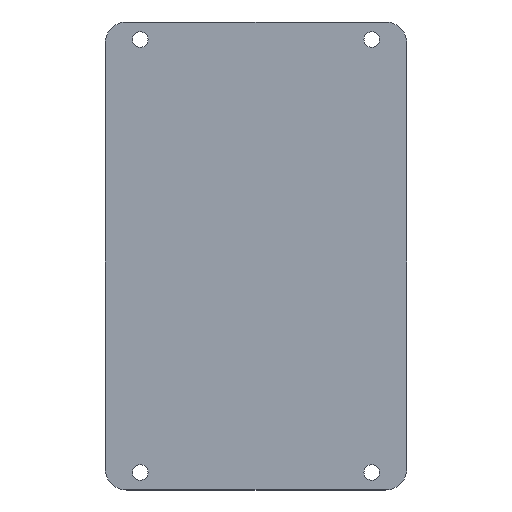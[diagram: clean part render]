
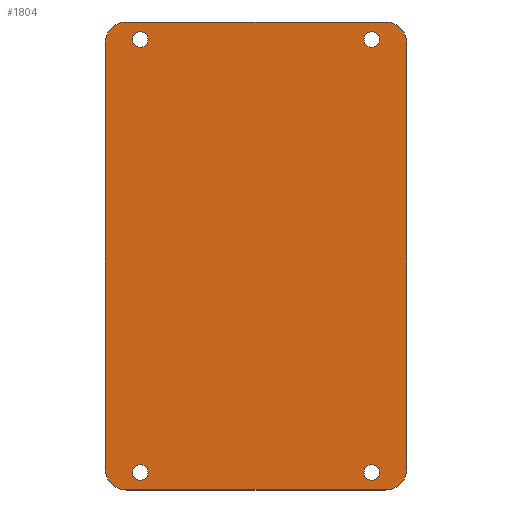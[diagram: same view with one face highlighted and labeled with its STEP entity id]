
A CAD part, top view. The second image highlights one B-rep face of the part: STEP entity #1804.
In plain terms, the highlighted planar face has unit normal (0, 0, 1).
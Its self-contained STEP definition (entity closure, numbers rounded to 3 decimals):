
#47=FACE_BOUND('',#273,.T.);
#48=FACE_BOUND('',#274,.T.);
#49=FACE_BOUND('',#275,.T.);
#50=FACE_BOUND('',#276,.T.);
#61=CIRCLE('',#1928,4.32);
#62=CIRCLE('',#1929,4.32);
#63=CIRCLE('',#1930,4.32);
#64=CIRCLE('',#1931,4.32);
#65=CIRCLE('',#1932,1.55);
#66=CIRCLE('',#1933,1.55);
#67=CIRCLE('',#1934,1.55);
#68=CIRCLE('',#1935,1.55);
#155=FACE_OUTER_BOUND('',#272,.T.);
#272=EDGE_LOOP('',(#1561,#1562,#1563,#1564,#1565,#1566,#1567,#1568));
#273=EDGE_LOOP('',(#1569));
#274=EDGE_LOOP('',(#1570));
#275=EDGE_LOOP('',(#1571));
#276=EDGE_LOOP('',(#1572));
#498=LINE('',#2871,#723);
#500=LINE('',#2876,#725);
#501=LINE('',#2881,#726);
#502=LINE('',#2885,#727);
#723=VECTOR('',#2354,10.);
#725=VECTOR('',#2358,10.);
#726=VECTOR('',#2363,10.);
#727=VECTOR('',#2366,10.);
#888=VERTEX_POINT('',#2868);
#889=VERTEX_POINT('',#2870);
#890=VERTEX_POINT('',#2874);
#891=VERTEX_POINT('',#2875);
#892=VERTEX_POINT('',#2878);
#893=VERTEX_POINT('',#2880);
#894=VERTEX_POINT('',#2882);
#895=VERTEX_POINT('',#2884);
#896=VERTEX_POINT('',#2887);
#897=VERTEX_POINT('',#2889);
#898=VERTEX_POINT('',#2891);
#899=VERTEX_POINT('',#2893);
#1120=EDGE_CURVE('',#889,#888,#498,.T.);
#1122=EDGE_CURVE('',#890,#891,#500,.T.);
#1123=EDGE_CURVE('',#891,#889,#61,.T.);
#1124=EDGE_CURVE('',#888,#892,#62,.T.);
#1125=EDGE_CURVE('',#892,#893,#501,.T.);
#1126=EDGE_CURVE('',#893,#894,#63,.T.);
#1127=EDGE_CURVE('',#894,#895,#502,.T.);
#1128=EDGE_CURVE('',#895,#890,#64,.T.);
#1129=EDGE_CURVE('',#896,#896,#65,.T.);
#1130=EDGE_CURVE('',#897,#897,#66,.T.);
#1131=EDGE_CURVE('',#898,#898,#67,.T.);
#1132=EDGE_CURVE('',#899,#899,#68,.T.);
#1561=ORIENTED_EDGE('',*,*,#1122,.T.);
#1562=ORIENTED_EDGE('',*,*,#1123,.T.);
#1563=ORIENTED_EDGE('',*,*,#1120,.T.);
#1564=ORIENTED_EDGE('',*,*,#1124,.T.);
#1565=ORIENTED_EDGE('',*,*,#1125,.T.);
#1566=ORIENTED_EDGE('',*,*,#1126,.T.);
#1567=ORIENTED_EDGE('',*,*,#1127,.T.);
#1568=ORIENTED_EDGE('',*,*,#1128,.T.);
#1569=ORIENTED_EDGE('',*,*,#1129,.T.);
#1570=ORIENTED_EDGE('',*,*,#1130,.T.);
#1571=ORIENTED_EDGE('',*,*,#1131,.T.);
#1572=ORIENTED_EDGE('',*,*,#1132,.T.);
#1714=PLANE('',#1927);
#1804=ADVANCED_FACE('',(#155,#47,#48,#49,#50),#1714,.T.);
#1927=AXIS2_PLACEMENT_3D('',#2873,#2356,#2357);
#1928=AXIS2_PLACEMENT_3D('',#2877,#2359,#2360);
#1929=AXIS2_PLACEMENT_3D('',#2879,#2361,#2362);
#1930=AXIS2_PLACEMENT_3D('',#2883,#2364,#2365);
#1931=AXIS2_PLACEMENT_3D('',#2886,#2367,#2368);
#1932=AXIS2_PLACEMENT_3D('',#2888,#2369,#2370);
#1933=AXIS2_PLACEMENT_3D('',#2890,#2371,#2372);
#1934=AXIS2_PLACEMENT_3D('',#2892,#2373,#2374);
#1935=AXIS2_PLACEMENT_3D('',#2894,#2375,#2376);
#2354=DIRECTION('',(0.,1.,0.));
#2356=DIRECTION('center_axis',(0.,0.,1.));
#2357=DIRECTION('ref_axis',(-1.,0.,0.));
#2358=DIRECTION('',(1.,0.,0.));
#2359=DIRECTION('center_axis',(0.,0.,1.));
#2360=DIRECTION('ref_axis',(0.,-1.,0.));
#2361=DIRECTION('center_axis',(0.,0.,1.));
#2362=DIRECTION('ref_axis',(1.,0.,0.));
#2363=DIRECTION('',(-1.,0.,0.));
#2364=DIRECTION('center_axis',(0.,0.,1.));
#2365=DIRECTION('ref_axis',(0.,1.,0.));
#2366=DIRECTION('',(0.,-1.,0.));
#2367=DIRECTION('center_axis',(0.,0.,1.));
#2368=DIRECTION('ref_axis',(-1.,0.,0.));
#2369=DIRECTION('center_axis',(0.,0.,-1.));
#2370=DIRECTION('ref_axis',(-1.,0.,0.));
#2371=DIRECTION('center_axis',(0.,0.,-1.));
#2372=DIRECTION('ref_axis',(-1.,0.,0.));
#2373=DIRECTION('center_axis',(0.,0.,-1.));
#2374=DIRECTION('ref_axis',(-1.,0.,0.));
#2375=DIRECTION('center_axis',(0.,0.,-1.));
#2376=DIRECTION('ref_axis',(-1.,0.,0.));
#2868=CARTESIAN_POINT('',(30.,42.18,1.6));
#2870=CARTESIAN_POINT('',(30.,-42.18,1.6));
#2871=CARTESIAN_POINT('',(30.,-42.18,1.6));
#2873=CARTESIAN_POINT('Origin',(0.,0.,1.6));
#2874=CARTESIAN_POINT('',(-25.68,-46.5,1.6));
#2875=CARTESIAN_POINT('',(25.68,-46.5,1.6));
#2876=CARTESIAN_POINT('',(-23.,-46.5,1.6));
#2877=CARTESIAN_POINT('Origin',(25.68,-42.18,1.6));
#2878=CARTESIAN_POINT('',(25.68,46.5,1.6));
#2879=CARTESIAN_POINT('Origin',(25.68,42.18,1.6));
#2880=CARTESIAN_POINT('',(-25.68,46.5,1.6));
#2881=CARTESIAN_POINT('',(23.,46.5,1.6));
#2882=CARTESIAN_POINT('',(-30.,42.18,1.6));
#2883=CARTESIAN_POINT('Origin',(-25.68,42.18,1.6));
#2884=CARTESIAN_POINT('',(-30.,-42.18,1.6));
#2885=CARTESIAN_POINT('',(-30.,42.18,1.6));
#2886=CARTESIAN_POINT('Origin',(-25.68,-42.18,1.6));
#2887=CARTESIAN_POINT('',(-21.45,43.,1.6));
#2888=CARTESIAN_POINT('Origin',(-23.,43.,1.6));
#2889=CARTESIAN_POINT('',(24.55,43.,1.6));
#2890=CARTESIAN_POINT('Origin',(23.,43.,1.6));
#2891=CARTESIAN_POINT('',(24.55,-43.,1.6));
#2892=CARTESIAN_POINT('Origin',(23.,-43.,1.6));
#2893=CARTESIAN_POINT('',(-21.45,-43.,1.6));
#2894=CARTESIAN_POINT('Origin',(-23.,-43.,1.6));
